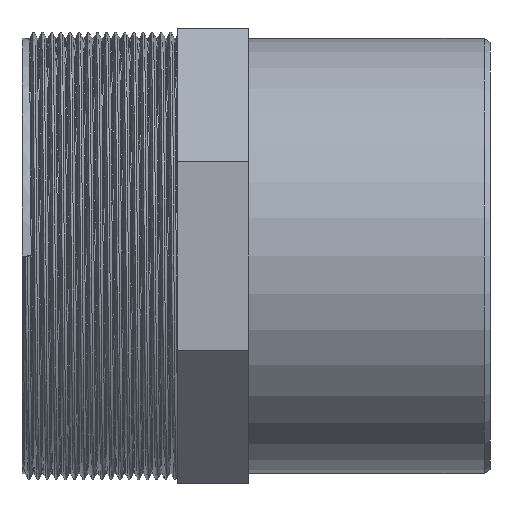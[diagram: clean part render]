
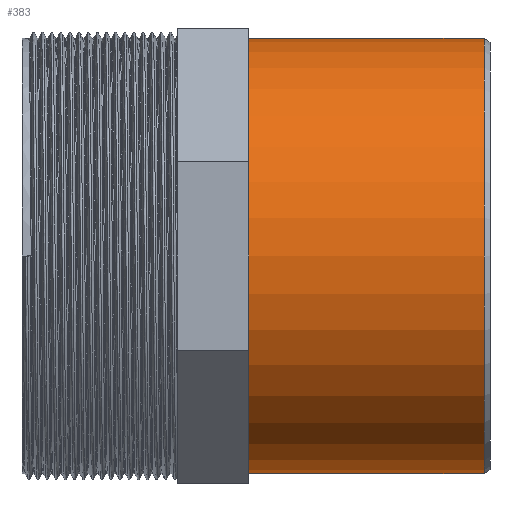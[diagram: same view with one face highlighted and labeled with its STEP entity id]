
A CAD part, left-side view. The second image highlights one B-rep face of the part: STEP entity #383.
In plain terms, the highlighted cylindrical face has radius 55 mm (diameter 110 mm), a full revolution.
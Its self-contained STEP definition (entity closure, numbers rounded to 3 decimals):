
#100=CYLINDRICAL_SURFACE('',#413,55.);
#106=FACE_BOUND('',#145,.T.);
#117=FACE_OUTER_BOUND('',#144,.T.);
#144=EDGE_LOOP('',(#281));
#145=EDGE_LOOP('',(#282));
#179=CIRCLE('',#411,55.);
#181=CIRCLE('',#414,55.);
#192=VERTEX_POINT('',#543);
#194=VERTEX_POINT('',#548);
#228=EDGE_CURVE('',#192,#192,#179,.T.);
#230=EDGE_CURVE('',#194,#194,#181,.T.);
#281=ORIENTED_EDGE('',*,*,#230,.F.);
#282=ORIENTED_EDGE('',*,*,#228,.F.);
#383=ADVANCED_FACE('',(#117,#106),#100,.T.);
#411=AXIS2_PLACEMENT_3D('',#544,#448,#449);
#413=AXIS2_PLACEMENT_3D('',#547,#452,#453);
#414=AXIS2_PLACEMENT_3D('',#549,#454,#455);
#448=DIRECTION('center_axis',(0.,-1.,0.));
#449=DIRECTION('ref_axis',(-1.,0.,0.));
#452=DIRECTION('center_axis',(0.,-1.,0.));
#453=DIRECTION('ref_axis',(-1.,0.,0.));
#454=DIRECTION('center_axis',(0.,1.,0.));
#455=DIRECTION('ref_axis',(-1.,0.,0.));
#543=CARTESIAN_POINT('',(55.,-68.5,0.));
#544=CARTESIAN_POINT('Origin',(0.,-68.5,0.));
#547=CARTESIAN_POINT('Origin',(0.,-9.,0.));
#548=CARTESIAN_POINT('',(55.,-9.,0.));
#549=CARTESIAN_POINT('Origin',(0.,-9.,0.));
